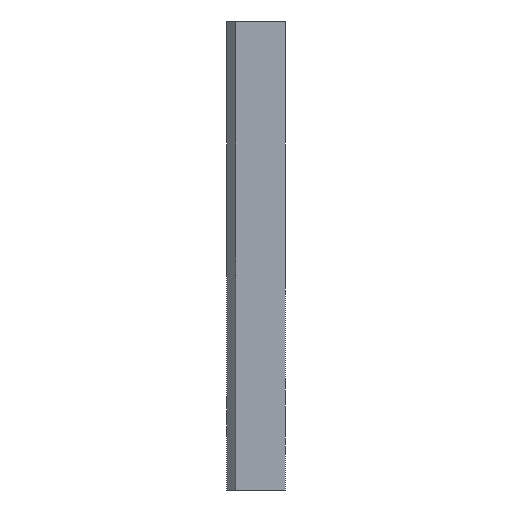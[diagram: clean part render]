
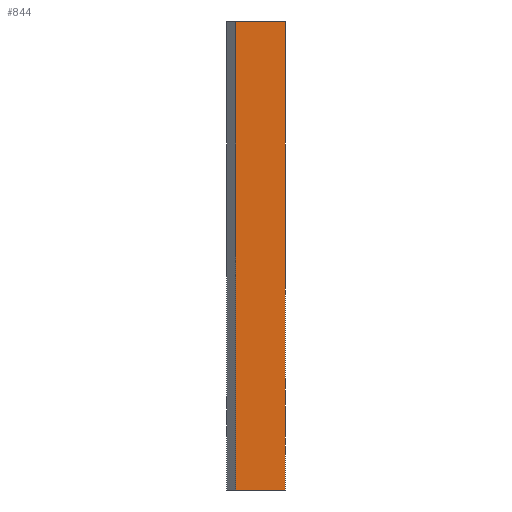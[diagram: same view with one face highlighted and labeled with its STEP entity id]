
A CAD part, front view. The second image highlights one B-rep face of the part: STEP entity #844.
In plain terms, the highlighted planar face has unit normal (0, -1, 0).
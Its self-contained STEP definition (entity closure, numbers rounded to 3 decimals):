
#368=CARTESIAN_POINT('Vertex',(20.,0.,-80.)) ;
#371=CARTESIAN_POINT('Line Origine',(11.5,0.,-80.)) ;
#375=CARTESIAN_POINT('Vertex',(3.,0.,-80.)) ;
#398=CARTESIAN_POINT('Line Origine',(3.,0.,0.)) ;
#402=CARTESIAN_POINT('Vertex',(3.,0.,80.)) ;
#422=CARTESIAN_POINT('Line Origine',(11.5,0.,80.)) ;
#426=CARTESIAN_POINT('Vertex',(20.,0.,80.)) ;
#719=CARTESIAN_POINT('Line Origine',(20.,0.,0.)) ;
#833=CARTESIAN_POINT('Axis2P3D Location',(3.,0.,80.)) ;
#372=DIRECTION('Vector Direction',(1.,0.,0.)) ;
#399=DIRECTION('Vector Direction',(0.,0.,-1.)) ;
#423=DIRECTION('Vector Direction',(1.,0.,0.)) ;
#720=DIRECTION('Vector Direction',(0.,0.,-1.)) ;
#834=DIRECTION('Axis2P3D Direction',(0.,1.,0.)) ;
#835=DIRECTION('Axis2P3D XDirection',(0.,-0.,1.)) ;
#836=AXIS2_PLACEMENT_3D('Plane Axis2P3D',#833,#834,#835) ;
#839=ORIENTED_EDGE('',*,*,#377,.T.) ;
#840=ORIENTED_EDGE('',*,*,#723,.F.) ;
#841=ORIENTED_EDGE('',*,*,#428,.F.) ;
#842=ORIENTED_EDGE('',*,*,#404,.T.) ;
#373=VECTOR('Line Direction',#372,1.) ;
#400=VECTOR('Line Direction',#399,1.) ;
#424=VECTOR('Line Direction',#423,1.) ;
#721=VECTOR('Line Direction',#720,1.) ;
#844=ADVANCED_FACE('A915-160X200',(#843),#837,.F.) ;
#377=EDGE_CURVE('',#376,#369,#374,.T.) ;
#404=EDGE_CURVE('',#403,#376,#401,.T.) ;
#428=EDGE_CURVE('',#403,#427,#425,.T.) ;
#723=EDGE_CURVE('',#427,#369,#722,.T.) ;
#838=EDGE_LOOP('',(#839,#840,#841,#842)) ;
#843=FACE_OUTER_BOUND('',#838,.T.) ;
#374=LINE('Line',#371,#373) ;
#401=LINE('Line',#398,#400) ;
#425=LINE('Line',#422,#424) ;
#722=LINE('Line',#719,#721) ;
#837=PLANE('Plane',#836) ;
#369=VERTEX_POINT('',#368) ;
#376=VERTEX_POINT('',#375) ;
#403=VERTEX_POINT('',#402) ;
#427=VERTEX_POINT('',#426) ;
